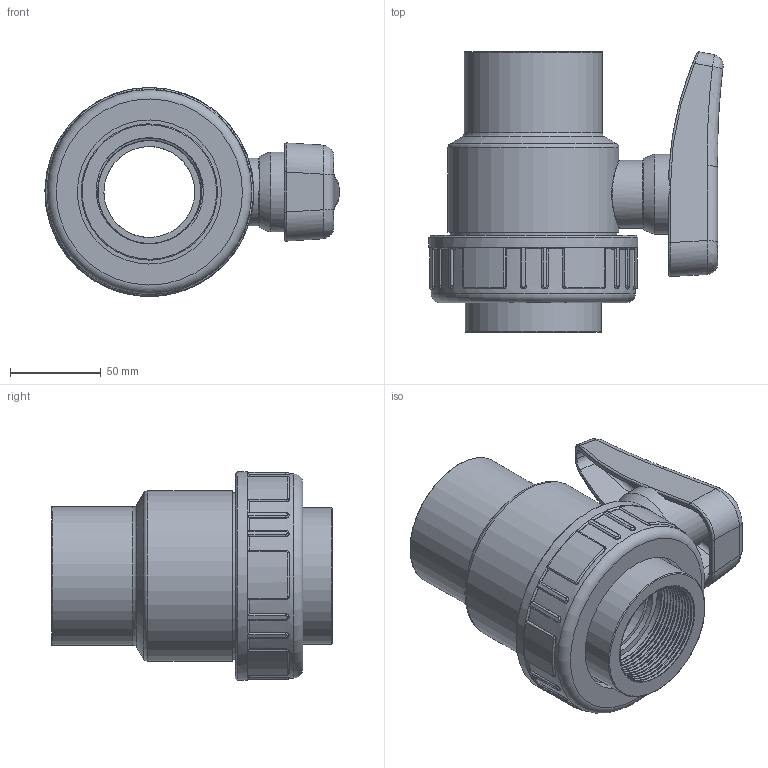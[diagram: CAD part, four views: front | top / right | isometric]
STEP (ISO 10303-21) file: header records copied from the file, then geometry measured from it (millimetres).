
FILE_DESCRIPTION(/* description */ (''),/* implementation_level */ '2;1');
FILE_NAME(/* name */ 'C:\Users\POLYPIPE\Desktop\DATASET INVENTOR\LIBRERIA EFFAST\3D_VALVOLE\3D_VALVOLE A SFERA\3D_SV\3D_BERSVE\3D_BERSVE063G.stp',/* time_stamp */ '2018-01-24T15:03:04+01:00',/* author */ ('POLYPIPE'),/* organization */ (''),/* preprocessor_version */ 'ST-DEVELOPER v16.1',/* originating_system */ 'Autodesk Inventor 2016',/* authorisation */ '');
FILE_SCHEMA (('CONFIG_CONTROL_DESIGN'));
Length unit declared in the file: centimetre
Products named in the file (1): 3D_BERSVE063G
Bounding box: 161.92 x 154.45 x 114.99 mm (x, y, z)
Volume: 735140.1 mm3; surface area: 148126.7 mm2
Topology: 2 solids, 2 shells, 354 faces, 914 edges, 567 vertices
Faces by surface type: cylinder 114, bspline 109, plane 100, torus 19, sphere 8, cone 4
Full cylindrical faces by diameter (mm): 25.1 x1, 37.3 x1, 44 x1, 50 x2, 56.656 x2, 75 x1, 76 x1, 79.3 x1, 89 x1, 91.7 x1, 94 x1, 96.5 x1, 112.4 x1, 115 x1
Entity records: 42061 total; most frequent: CARTESIAN_POINT 33735, ORIENTED_EDGE 1760, DIRECTION 1469, EDGE_CURVE 880, AXIS2_PLACEMENT_3D 581, VERTEX_POINT 558, EDGE_LOOP 392, STYLED_ITEM 356
